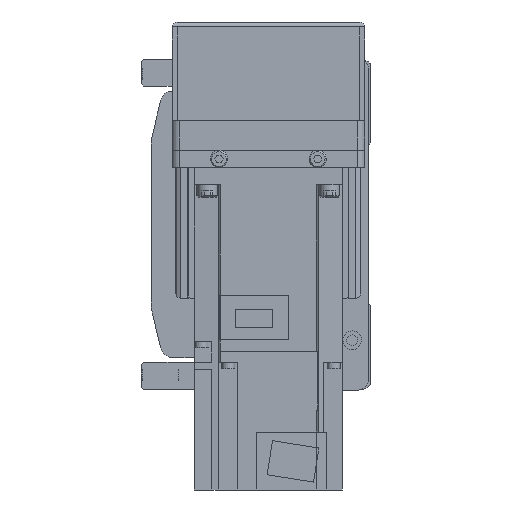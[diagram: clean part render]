
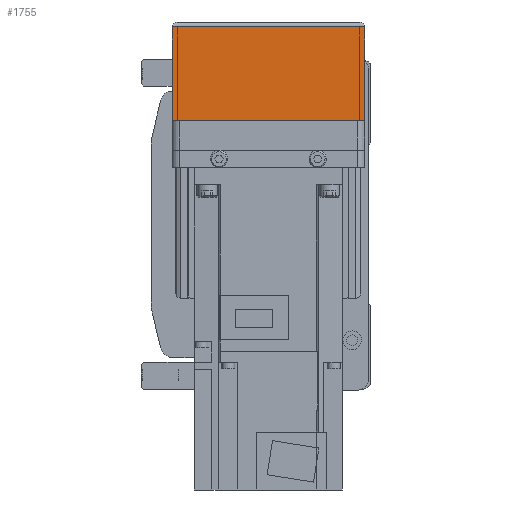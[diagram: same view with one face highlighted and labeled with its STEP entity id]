
A CAD part, left-side view. The second image highlights one B-rep face of the part: STEP entity #1755.
In plain terms, the highlighted planar face has unit normal (-1, 0, 0).
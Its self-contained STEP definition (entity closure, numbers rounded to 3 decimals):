
#1755 = ADVANCED_FACE( '', ( #4285 ), #4286, .F. );
#4285 = FACE_OUTER_BOUND( '', #7851, .T. );
#4286 = PLANE( '', #7852 );
#7851 = EDGE_LOOP( '', ( #12802, #12803, #12804, #12805 ) );
#7852 = AXIS2_PLACEMENT_3D( '', #12806, #12807, #12808 );
#12802 = ORIENTED_EDGE( '', *, *, #21341, .F. );
#12803 = ORIENTED_EDGE( '', *, *, #20834, .F. );
#12804 = ORIENTED_EDGE( '', *, *, #21342, .T. );
#12805 = ORIENTED_EDGE( '', *, *, #21343, .F. );
#12806 = CARTESIAN_POINT( '', ( -158., 36., 7. ) );
#12807 = DIRECTION( '', ( 1., 0., 0. ) );
#12808 = DIRECTION( '', ( 0., 0., -1. ) );
#20834 = EDGE_CURVE( '', #25105, #25107, #25108, .T. );
#21341 = EDGE_CURVE( '', #25107, #24379, #25945, .T. );
#21342 = EDGE_CURVE( '', #25105, #25946, #25947, .T. );
#21343 = EDGE_CURVE( '', #24379, #25946, #25948, .T. );
#24379 = VERTEX_POINT( '', #30107 );
#25105 = VERTEX_POINT( '', #31155 );
#25107 = VERTEX_POINT( '', #31158 );
#25108 = LINE( '', #31159, #31160 );
#25945 = LINE( '', #32432, #32433 );
#25946 = VERTEX_POINT( '', #32434 );
#25947 = LINE( '', #32435, #32436 );
#25948 = LINE( '', #32437, #32438 );
#30107 = CARTESIAN_POINT( '', ( -158., -39., -12.1 ) );
#31155 = CARTESIAN_POINT( '', ( -158., 39., -50. ) );
#31158 = CARTESIAN_POINT( '', ( -158., 39., -12.1 ) );
#31159 = CARTESIAN_POINT( '', ( -158., 39., -50. ) );
#31160 = VECTOR( '', #38586, 1000. );
#32432 = CARTESIAN_POINT( '', ( -158., 50., -12.1 ) );
#32433 = VECTOR( '', #39219, 1000. );
#32434 = CARTESIAN_POINT( '', ( -158., -39., -50. ) );
#32435 = CARTESIAN_POINT( '', ( -158., 40., -50. ) );
#32436 = VECTOR( '', #39220, 1000. );
#32437 = CARTESIAN_POINT( '', ( -158., -39., -12.1 ) );
#32438 = VECTOR( '', #39221, 1000. );
#38586 = DIRECTION( '', ( 0., 0., 1. ) );
#39219 = DIRECTION( '', ( 0., -1., 0. ) );
#39220 = DIRECTION( '', ( 0., -1., 0. ) );
#39221 = DIRECTION( '', ( 0., 0., -1. ) );
